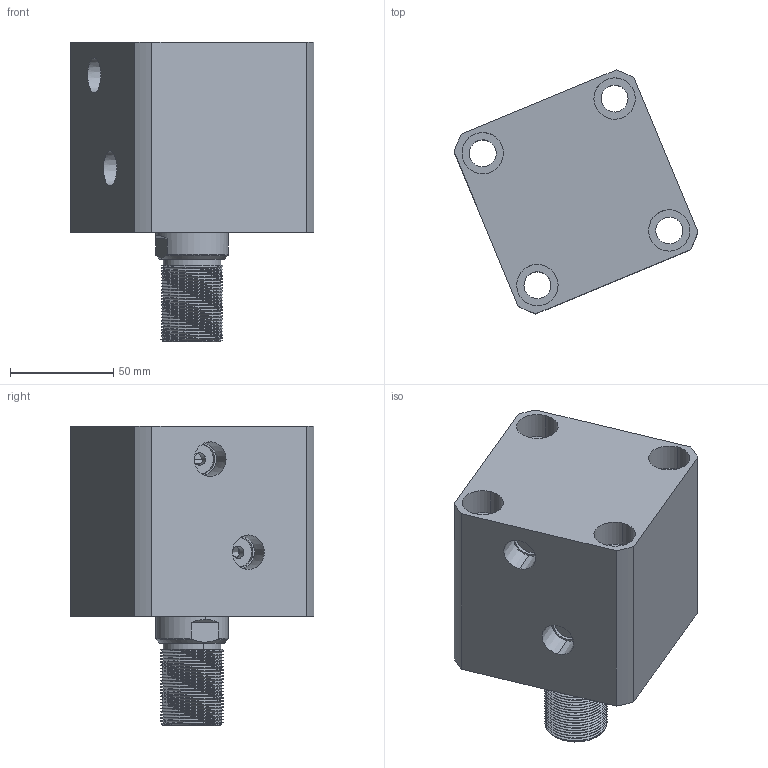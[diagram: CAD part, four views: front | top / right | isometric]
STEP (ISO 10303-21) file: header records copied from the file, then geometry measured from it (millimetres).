
FILE_DESCRIPTION (( 'STEP AP214' ), '1' );
FILE_NAME ('chtb-sd63x25w_asm.STEP', '2018-05-19T01:54:38', ( 'Windows' ), ( 'Microsoft' ), 'SwSTEP 2.0', 'SolidWorks 2015', '' );
FILE_SCHEMA (( 'AUTOMOTIVE_DESIGN' ));
Length unit declared in the file: millimetre
Products named in the file (4): CHTB63X25WHSG; CHTB63X25NBT; CHTB-63QG; chtb-sd63x25w_asm
Assembly tree (3 placements, depth 2):
  chtb-sd63x25w_asm
    CHTB-63QG
    CHTB63X25NBT
    CHTB63X25WHSG
Bounding box: 117.81 x 117.81 x 145 mm (x, y, z)
Volume: 718171.5 mm3; surface area: 128716.2 mm2
Topology: 3 solids, 3 shells, 219 faces, 625 edges, 427 vertices
Faces by surface type: cylinder 150, plane 36, bspline 14, cone 13, torus 6
Entity records: 22208 total; most frequent: CARTESIAN_POINT 16953, ORIENTED_EDGE 1242, DIRECTION 881, EDGE_CURVE 621, VERTEX_POINT 427, AXIS2_PLACEMENT_3D 346, EDGE_LOOP 252, FACE_OUTER_BOUND 219
